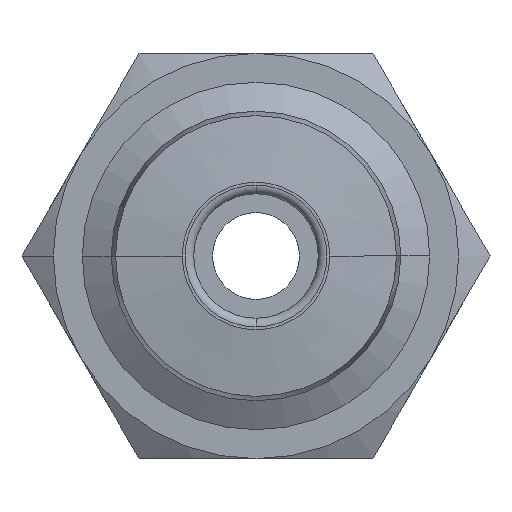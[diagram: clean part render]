
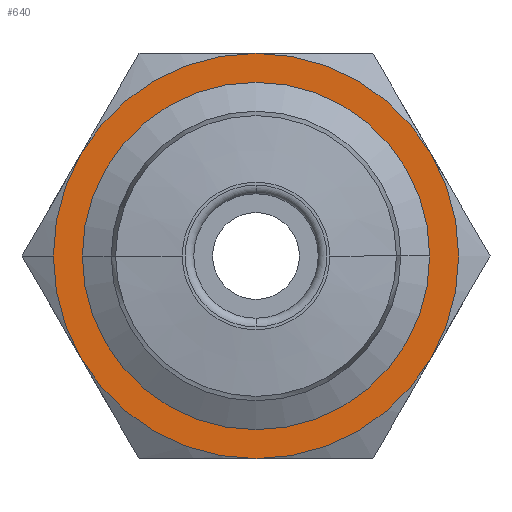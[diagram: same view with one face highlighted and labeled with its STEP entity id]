
A CAD part, front view. The second image highlights one B-rep face of the part: STEP entity #640.
In plain terms, the highlighted planar face has unit normal (0, -1, 0).
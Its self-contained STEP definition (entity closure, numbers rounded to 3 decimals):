
#43 = CIRCLE ( 'NONE', #1344, 7. ) ;
#80 = CARTESIAN_POINT ( 'NONE',  ( 0., -6., 7. ) ) ;
#89 = VERTEX_POINT ( 'NONE', #916 ) ;
#104 = ORIENTED_EDGE ( 'NONE', *, *, #723, .T. ) ;
#165 = DIRECTION ( 'NONE',  ( 0., 1., 0. ) ) ;
#197 = DIRECTION ( 'NONE',  ( -1., 0., 0. ) ) ;
#204 = DIRECTION ( 'NONE',  ( -1., 0., 0. ) ) ;
#222 = CARTESIAN_POINT ( 'NONE',  ( 6.062, -6., -3.5 ) ) ;
#224 = CARTESIAN_POINT ( 'NONE',  ( 0., -6., 0. ) ) ;
#281 = ORIENTED_EDGE ( 'NONE', *, *, #1152, .F. ) ;
#287 = CIRCLE ( 'NONE', #2097, 7. ) ;
#306 = VERTEX_POINT ( 'NONE', #80 ) ;
#308 = EDGE_LOOP ( 'NONE', ( #326, #104 ) ) ;
#326 = ORIENTED_EDGE ( 'NONE', *, *, #1104, .T. ) ;
#357 = CARTESIAN_POINT ( 'NONE',  ( 0., -6., -7. ) ) ;
#470 = DIRECTION ( 'NONE',  ( 0., -1., 0. ) ) ;
#500 = EDGE_CURVE ( 'NONE', #1496, #2116, #542, .T. ) ;
#542 = CIRCLE ( 'NONE', #2014, 7. ) ;
#573 = EDGE_CURVE ( 'NONE', #2155, #306, #287, .T. ) ;
#587 = ORIENTED_EDGE ( 'NONE', *, *, #1502, .F. ) ;
#640 = ADVANCED_FACE ( 'NONE', ( #2065, #872 ), #1467, .T. ) ;
#701 = DIRECTION ( 'NONE',  ( 0., 1., 0. ) ) ;
#715 = ORIENTED_EDGE ( 'NONE', *, *, #1744, .F. ) ;
#723 = EDGE_CURVE ( 'NONE', #2365, #863, #1315, .T. ) ;
#738 = AXIS2_PLACEMENT_3D ( 'NONE', #224, #1270, #2474 ) ;
#746 = AXIS2_PLACEMENT_3D ( 'NONE', #2348, #2546, #1542 ) ;
#758 = CARTESIAN_POINT ( 'NONE',  ( -7., -6., 0. ) ) ;
#785 = CIRCLE ( 'NONE', #2251, 7. ) ;
#809 = CARTESIAN_POINT ( 'NONE',  ( 0., -6., 0. ) ) ;
#863 = VERTEX_POINT ( 'NONE', #2572 ) ;
#872 = FACE_BOUND ( 'NONE', #308, .T. ) ;
#916 = CARTESIAN_POINT ( 'NONE',  ( -6.062, -6., -3.5 ) ) ;
#997 = AXIS2_PLACEMENT_3D ( 'NONE', #1183, #165, #204 ) ;
#1020 = DIRECTION ( 'NONE',  ( -1., 0., 0. ) ) ;
#1090 = DIRECTION ( 'NONE',  ( 0., 1., 0. ) ) ;
#1104 = EDGE_CURVE ( 'NONE', #863, #2365, #1793, .T. ) ;
#1105 = DIRECTION ( 'NONE',  ( -1., 0., 0. ) ) ;
#1152 = EDGE_CURVE ( 'NONE', #89, #2410, #2125, .T. ) ;
#1183 = CARTESIAN_POINT ( 'NONE',  ( 0., -6., 0. ) ) ;
#1199 = VERTEX_POINT ( 'NONE', #357 ) ;
#1211 = DIRECTION ( 'NONE',  ( 0., 1., 0. ) ) ;
#1270 = DIRECTION ( 'NONE',  ( 0., 1., 0. ) ) ;
#1273 = ORIENTED_EDGE ( 'NONE', *, *, #500, .F. ) ;
#1282 = EDGE_CURVE ( 'NONE', #2410, #2155, #1328, .T. ) ;
#1284 = CARTESIAN_POINT ( 'NONE',  ( 0., -6., 0. ) ) ;
#1315 = CIRCLE ( 'NONE', #1522, 6. ) ;
#1328 = CIRCLE ( 'NONE', #746, 7. ) ;
#1344 = AXIS2_PLACEMENT_3D ( 'NONE', #2135, #1090, #1687 ) ;
#1441 = ORIENTED_EDGE ( 'NONE', *, *, #1282, .F. ) ;
#1457 = DIRECTION ( 'NONE',  ( -1., 0., 0. ) ) ;
#1466 = DIRECTION ( 'NONE',  ( -1., 0., 0. ) ) ;
#1467 = PLANE ( 'NONE',  #1774 ) ;
#1496 = VERTEX_POINT ( 'NONE', #2085 ) ;
#1502 = EDGE_CURVE ( 'NONE', #2116, #1199, #785, .T. ) ;
#1522 = AXIS2_PLACEMENT_3D ( 'NONE', #2480, #701, #1466 ) ;
#1542 = DIRECTION ( 'NONE',  ( -1., 0., 0. ) ) ;
#1651 = CARTESIAN_POINT ( 'NONE',  ( -6.062, -6., 3.5 ) ) ;
#1670 = CARTESIAN_POINT ( 'NONE',  ( -6.5, -6., 0. ) ) ;
#1687 = DIRECTION ( 'NONE',  ( -1., 0., 0. ) ) ;
#1744 = EDGE_CURVE ( 'NONE', #1199, #89, #1865, .T. ) ;
#1774 = AXIS2_PLACEMENT_3D ( 'NONE', #1670, #470, #2468 ) ;
#1793 = CIRCLE ( 'NONE', #1920, 6. ) ;
#1865 = CIRCLE ( 'NONE', #738, 7. ) ;
#1920 = AXIS2_PLACEMENT_3D ( 'NONE', #2010, #1211, #1020 ) ;
#1921 = ORIENTED_EDGE ( 'NONE', *, *, #2309, .F. ) ;
#2010 = CARTESIAN_POINT ( 'NONE',  ( 0., -6., 0. ) ) ;
#2014 = AXIS2_PLACEMENT_3D ( 'NONE', #809, #2209, #197 ) ;
#2065 = FACE_OUTER_BOUND ( 'NONE', #2161, .T. ) ;
#2076 = DIRECTION ( 'NONE',  ( 0., 1., 0. ) ) ;
#2085 = CARTESIAN_POINT ( 'NONE',  ( 6.062, -6., 3.5 ) ) ;
#2097 = AXIS2_PLACEMENT_3D ( 'NONE', #2454, #2076, #1457 ) ;
#2099 = DIRECTION ( 'NONE',  ( 0., 1., 0. ) ) ;
#2116 = VERTEX_POINT ( 'NONE', #222 ) ;
#2125 = CIRCLE ( 'NONE', #997, 7. ) ;
#2135 = CARTESIAN_POINT ( 'NONE',  ( 0., -6., 0. ) ) ;
#2155 = VERTEX_POINT ( 'NONE', #1651 ) ;
#2161 = EDGE_LOOP ( 'NONE', ( #281, #715, #587, #1273, #1921, #2465, #1441 ) ) ;
#2198 = CARTESIAN_POINT ( 'NONE',  ( 6., -6., 0. ) ) ;
#2209 = DIRECTION ( 'NONE',  ( 0., 1., 0. ) ) ;
#2251 = AXIS2_PLACEMENT_3D ( 'NONE', #1284, #2099, #1105 ) ;
#2309 = EDGE_CURVE ( 'NONE', #306, #1496, #43, .T. ) ;
#2348 = CARTESIAN_POINT ( 'NONE',  ( 0., -6., 0. ) ) ;
#2365 = VERTEX_POINT ( 'NONE', #2198 ) ;
#2410 = VERTEX_POINT ( 'NONE', #758 ) ;
#2454 = CARTESIAN_POINT ( 'NONE',  ( 0., -6., 0. ) ) ;
#2465 = ORIENTED_EDGE ( 'NONE', *, *, #573, .F. ) ;
#2468 = DIRECTION ( 'NONE',  ( 0., 0., -1. ) ) ;
#2474 = DIRECTION ( 'NONE',  ( -1., 0., 0. ) ) ;
#2480 = CARTESIAN_POINT ( 'NONE',  ( 0., -6., 0. ) ) ;
#2546 = DIRECTION ( 'NONE',  ( 0., 1., 0. ) ) ;
#2572 = CARTESIAN_POINT ( 'NONE',  ( -6., -6., 0. ) ) ;
